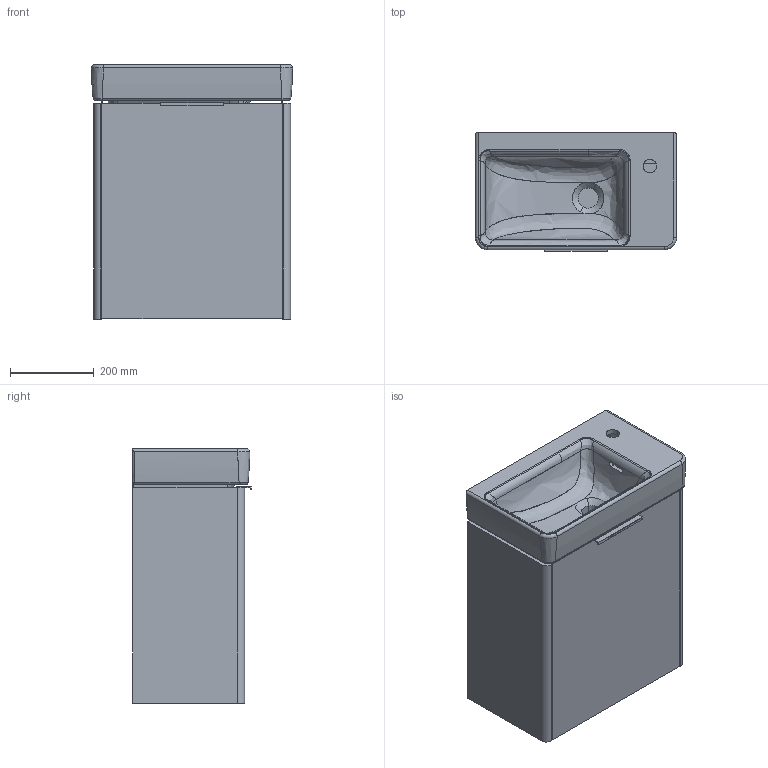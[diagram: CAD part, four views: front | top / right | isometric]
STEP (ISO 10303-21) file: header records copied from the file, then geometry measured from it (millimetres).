
FILE_DESCRIPTION(/* description */ (''),/* implementation_level */ '2;1');
FILE_NAME(/* name */ 'C:\Users\User33\Desktop\Base\3D01_402101.stp',/* time_stamp */ '2018-05-05T15:22:58+02:00',/* author */ ('User33'),/* organization */ (''),/* preprocessor_version */ 'ST-DEVELOPER v16.13',/* originating_system */ 'Autodesk Inventor 2018',/* authorisation */ '');
FILE_SCHEMA (('AUTOMOTIVE_DESIGN { 1 0 10303 214 3 1 1 }'));
Products named in the file (11): Scheletro base curva con anta 470; Anta; Ripiano vetro; Fianco sx; Fascia rialzo; Fondo mobile; Catena retro; Fascia frontale; Fianco dx; Maniglia; HY15954......1_A.02
Assembly tree (10 placements, depth 2):
  Scheletro base curva con anta 470
    Anta
    Ripiano vetro
    Fianco sx
    Fascia rialzo
    Fondo mobile
    Catena retro
    Fascia frontale
    Fianco dx
    Maniglia
    HY15954......1_A.02
Bounding box: 479.94 x 283.1 x 607 mm (x, y, z)
Volume: 12328549 mm3; surface area: 2195236.5 mm2
Topology: 10 solids, 367 shells, 444 faces, 1860 edges, 1787 vertices
Faces by surface type: bspline 229, plane 108, cylinder 80, torus 10, sphere 10, cone 7
Full cylindrical faces by diameter (mm): 5 x8
Entity records: 93442 total; most frequent: CARTESIAN_POINT 79551, DIRECTION 2192, ORIENTED_EDGE 2007, EDGE_CURVE 1838, VERTEX_POINT 1787, AXIS2_PLACEMENT_3D 868, B_SPLINE_CURVE_WITH_KNOTS 750, CIRCLE 508
